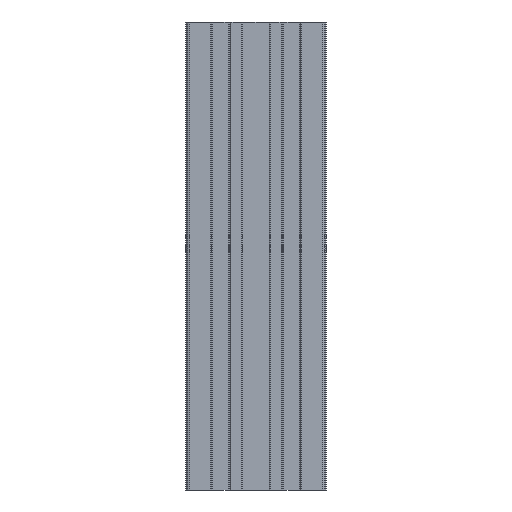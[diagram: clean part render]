
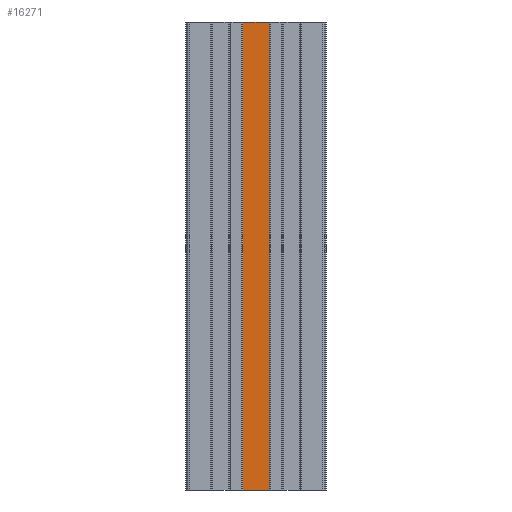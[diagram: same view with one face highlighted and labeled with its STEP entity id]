
A CAD part, front view. The second image highlights one B-rep face of the part: STEP entity #16271.
In plain terms, the highlighted planar face has unit normal (0, -1, 0).
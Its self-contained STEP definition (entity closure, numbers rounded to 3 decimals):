
#11 = DIRECTION ( 'NONE',  ( 0., 0., 1. ) ) ;
#655 = EDGE_CURVE ( 'NONE', #3381, #17643, #13545, .T. ) ;
#1671 = AXIS2_PLACEMENT_3D ( 'NONE', #3963, #1992, #11 ) ;
#1992 = DIRECTION ( 'NONE',  ( 0., 1., 0. ) ) ;
#2116 = EDGE_LOOP ( 'NONE', ( #14560, #14998, #16829, #14727 ) ) ;
#2332 = LINE ( 'NONE', #17539, #11373 ) ;
#2346 = VERTEX_POINT ( 'NONE', #8729 ) ;
#3381 = VERTEX_POINT ( 'NONE', #11145 ) ;
#3963 = CARTESIAN_POINT ( 'NONE',  ( 8.45, -21.5, 150. ) ) ;
#4672 = EDGE_CURVE ( 'NONE', #2346, #17187, #2332, .T. ) ;
#5853 = DIRECTION ( 'NONE',  ( 1., 0., 0. ) ) ;
#5920 = PLANE ( 'NONE',  #1671 ) ;
#6146 = FACE_OUTER_BOUND ( 'NONE', #2116, .T. ) ;
#6858 = VECTOR ( 'NONE', #9627, 1000. ) ;
#7827 = CARTESIAN_POINT ( 'NONE',  ( 8.45, -21.5, -150. ) ) ;
#8729 = CARTESIAN_POINT ( 'NONE',  ( 8.45, -21.5, 150. ) ) ;
#9627 = DIRECTION ( 'NONE',  ( 0., 0., -1. ) ) ;
#9782 = LINE ( 'NONE', #7827, #14915 ) ;
#10334 = VECTOR ( 'NONE', #11337, 1000. ) ;
#10602 = CARTESIAN_POINT ( 'NONE',  ( -8.45, -21.5, -150. ) ) ;
#11145 = CARTESIAN_POINT ( 'NONE',  ( -8.45, -21.5, 150. ) ) ;
#11337 = DIRECTION ( 'NONE',  ( 1., 0., 0. ) ) ;
#11373 = VECTOR ( 'NONE', #15599, 1000. ) ;
#11568 = CARTESIAN_POINT ( 'NONE',  ( -8.45, -21.5, 150. ) ) ;
#13313 = CARTESIAN_POINT ( 'NONE',  ( 0., -21.5, 150. ) ) ;
#13545 = LINE ( 'NONE', #11568, #6858 ) ;
#14560 = ORIENTED_EDGE ( 'NONE', *, *, #18786, .T. ) ;
#14727 = ORIENTED_EDGE ( 'NONE', *, *, #655, .T. ) ;
#14915 = VECTOR ( 'NONE', #5853, 1000. ) ;
#14998 = ORIENTED_EDGE ( 'NONE', *, *, #4672, .F. ) ;
#15269 = LINE ( 'NONE', #13313, #10334 ) ;
#15599 = DIRECTION ( 'NONE',  ( 0., 0., -1. ) ) ;
#16271 = ADVANCED_FACE ( 'NONE', ( #6146 ), #5920, .F. ) ;
#16566 = EDGE_CURVE ( 'NONE', #3381, #2346, #15269, .T. ) ;
#16829 = ORIENTED_EDGE ( 'NONE', *, *, #16566, .F. ) ;
#17187 = VERTEX_POINT ( 'NONE', #18439 ) ;
#17539 = CARTESIAN_POINT ( 'NONE',  ( 8.45, -21.5, 150. ) ) ;
#17643 = VERTEX_POINT ( 'NONE', #10602 ) ;
#18439 = CARTESIAN_POINT ( 'NONE',  ( 8.45, -21.5, -150. ) ) ;
#18786 = EDGE_CURVE ( 'NONE', #17643, #17187, #9782, .T. ) ;
